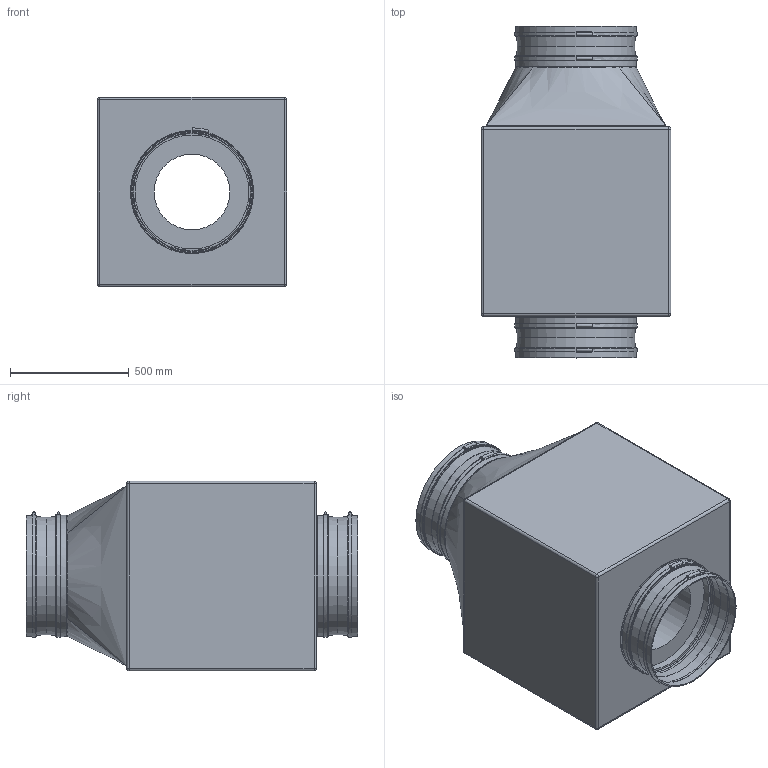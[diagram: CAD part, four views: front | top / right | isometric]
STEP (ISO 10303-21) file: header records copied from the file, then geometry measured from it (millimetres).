
FILE_DESCRIPTION(/* description */ (''),/* implementation_level */ '2;1');
FILE_NAME(/* name */ 'Z:\Output\GBD EC 500 B_Axial-05813-001.stp',/* time_stamp */ '2017-05-09T00:00:43+02:00',/* author */ ('jayeshpanchal'),/* organization */ (''),/* preprocessor_version */ 'ST-DEVELOPER v16.5',/* originating_system */ 'Autodesk Inventor 2017',/* authorisation */ '');
FILE_SCHEMA (('AUTOMOTIVE_DESIGN { 1 0 10303 214 3 1 1 }'));
Length unit declared in the file: millimetre
Products named in the file (1): GB-1
Bounding box: 800 x 1400 x 800 mm (x, y, z)
Volume: 453464427.5 mm3; surface area: 7232823.6 mm2
Topology: 7 solids, 7 shells, 121 faces, 228 edges, 134 vertices
Faces by surface type: cylinder 46, plane 43, bspline 12, cone 8, sphere 8, torus 4
Full cylindrical faces by diameter (mm): 320 x1, 480 x1, 500 x2, 501 x8, 510 x1, 511 x8, 517 x4, 520 x1
Entity records: 3393 total; most frequent: CARTESIAN_POINT 1036, DIRECTION 514, ORIENTED_EDGE 398, AXIS2_PLACEMENT_3D 225, EDGE_CURVE 191, EDGE_LOOP 182, VERTEX_POINT 131, FACE_OUTER_BOUND 121
